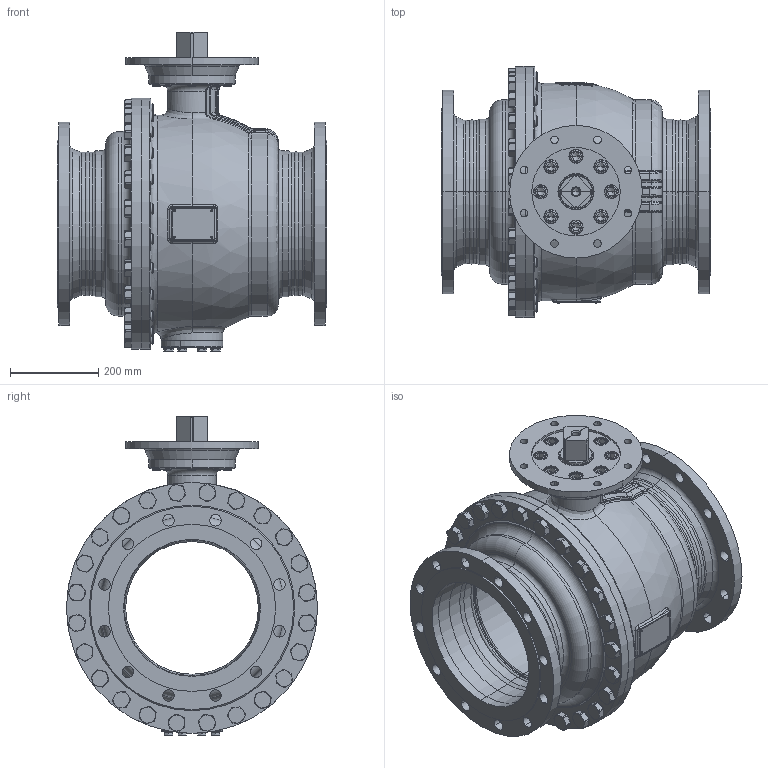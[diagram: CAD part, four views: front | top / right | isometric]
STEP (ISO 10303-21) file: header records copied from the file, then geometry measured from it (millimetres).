
FILE_DESCRIPTION((''),'2;1');
FILE_NAME('KHI-F_300-PN016-F25-4_SW0001','2026-02-05T15:01:23',('fischerkl'),('KLINGER'),'CREO PARAMETRIC BY PTC INC, 2023014','CREO PARAMETRIC BY PTC INC, 2023014','');
FILE_SCHEMA(('CONFIG_CONTROL_DESIGN'));
Products named in the file (1): KHI-F_300-PN016-F25-4_SW0001
Bounding box: 610 x 568 x 721.8 mm (x, y, z)
Volume: 29692868.6 mm3; surface area: 4485662.3 mm2
Topology: 1 solids, 4 shells, 3382 faces, 8560 edges, 5349 vertices
Faces by surface type: plane 1738, cylinder 759, cone 448, torus 297, bspline 111, sphere 29
Entity records: 143890 total; most frequent: CARTESIAN_POINT 63608, ORIENTED_EDGE 17068, DIRECTION 16448, EDGE_CURVE 8534, AXIS2_PLACEMENT_3D 6270, VERTEX_POINT 5349, VECTOR 3908, LINE 3908
